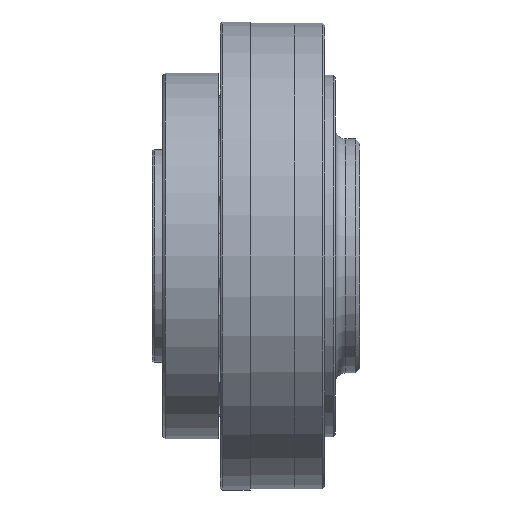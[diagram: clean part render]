
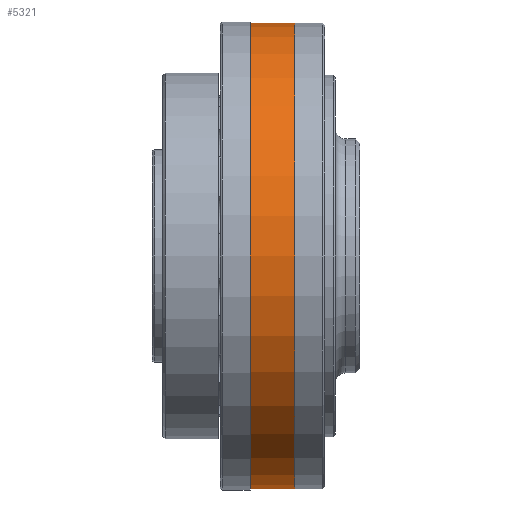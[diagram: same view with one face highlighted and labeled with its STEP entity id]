
A CAD part, front view. The second image highlights one B-rep face of the part: STEP entity #5321.
In plain terms, the highlighted cylindrical face has radius 109.5 mm (diameter 219 mm), a full revolution.
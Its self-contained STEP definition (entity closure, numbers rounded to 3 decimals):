
#464=CYLINDRICAL_SURFACE('',#5953,109.5);
#635=FACE_OUTER_BOUND('',#959,.T.);
#959=EDGE_LOOP('',(#3892,#3893,#3894,#3895,#3896,#3897));
#1415=LINE('',#8872,#1647);
#1647=VECTOR('',#6947,109.5);
#1920=CIRCLE('',#5951,109.5);
#1921=CIRCLE('',#5952,109.5);
#1922=CIRCLE('',#5954,109.5);
#1923=CIRCLE('',#5955,109.5);
#2452=VERTEX_POINT('',#8863);
#2453=VERTEX_POINT('',#8864);
#2454=VERTEX_POINT('',#8868);
#2455=VERTEX_POINT('',#8869);
#3047=EDGE_CURVE('',#2452,#2453,#1920,.T.);
#3048=EDGE_CURVE('',#2453,#2452,#1921,.T.);
#3049=EDGE_CURVE('',#2454,#2455,#1922,.T.);
#3050=EDGE_CURVE('',#2455,#2454,#1923,.T.);
#3051=EDGE_CURVE('',#2455,#2453,#1415,.T.);
#3892=ORIENTED_EDGE('',*,*,#3049,.F.);
#3893=ORIENTED_EDGE('',*,*,#3050,.F.);
#3894=ORIENTED_EDGE('',*,*,#3051,.T.);
#3895=ORIENTED_EDGE('',*,*,#3048,.T.);
#3896=ORIENTED_EDGE('',*,*,#3047,.T.);
#3897=ORIENTED_EDGE('',*,*,#3051,.F.);
#5321=ADVANCED_FACE('',(#635),#464,.T.);
#5951=AXIS2_PLACEMENT_3D('',#8865,#6937,#6938);
#5952=AXIS2_PLACEMENT_3D('',#8866,#6939,#6940);
#5953=AXIS2_PLACEMENT_3D('',#8867,#6941,#6942);
#5954=AXIS2_PLACEMENT_3D('',#8870,#6943,#6944);
#5955=AXIS2_PLACEMENT_3D('',#8871,#6945,#6946);
#6937=DIRECTION('center_axis',(1.,0.,0.));
#6938=DIRECTION('ref_axis',(0.,1.,0.));
#6939=DIRECTION('center_axis',(1.,0.,0.));
#6940=DIRECTION('ref_axis',(0.,1.,0.));
#6941=DIRECTION('center_axis',(1.,0.,0.));
#6942=DIRECTION('ref_axis',(0.,1.,0.));
#6943=DIRECTION('center_axis',(1.,0.,0.));
#6944=DIRECTION('ref_axis',(0.,1.,0.));
#6945=DIRECTION('center_axis',(1.,0.,0.));
#6946=DIRECTION('ref_axis',(0.,1.,0.));
#6947=DIRECTION('',(-1.,0.,0.));
#8863=CARTESIAN_POINT('',(14.,109.5,0.));
#8864=CARTESIAN_POINT('',(14.,-109.5,0.));
#8865=CARTESIAN_POINT('Origin',(14.,0.,0.));
#8866=CARTESIAN_POINT('Origin',(14.,0.,0.));
#8867=CARTESIAN_POINT('Origin',(24.5,0.,0.));
#8868=CARTESIAN_POINT('',(35.,109.5,0.));
#8869=CARTESIAN_POINT('',(35.,-109.5,0.));
#8870=CARTESIAN_POINT('Origin',(35.,0.,0.));
#8871=CARTESIAN_POINT('Origin',(35.,0.,0.));
#8872=CARTESIAN_POINT('',(24.5,-109.5,0.));
